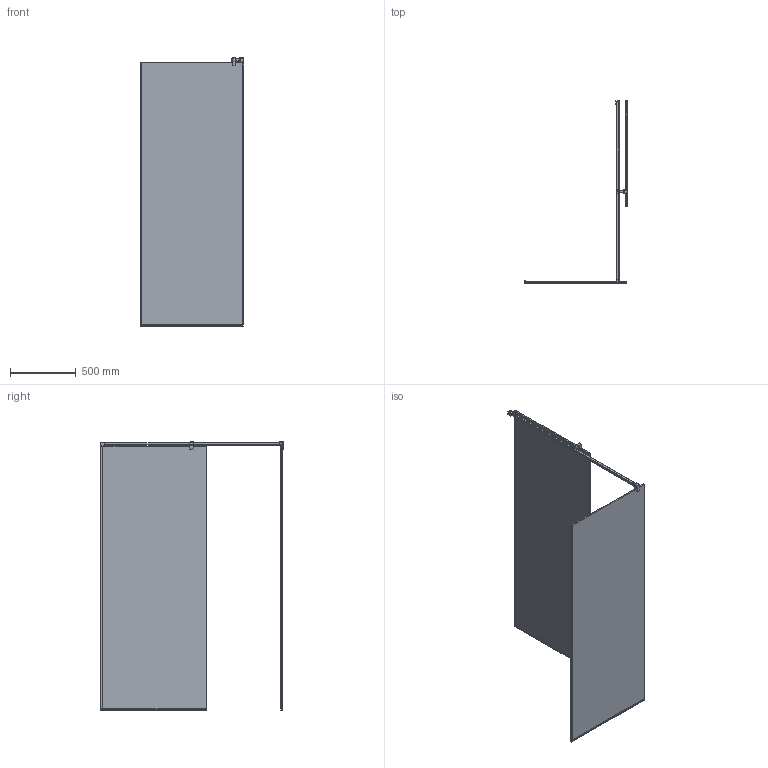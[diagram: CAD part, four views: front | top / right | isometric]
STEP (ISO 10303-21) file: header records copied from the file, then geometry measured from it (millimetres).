
FILE_DESCRIPTION(/* description */ ('Стенка задняя'),/* implementation_level */ '2;1');
FILE_NAME(/* name */ 'D:\7\2\GLASS LINE GK-012\GLASS LINE GK-012 правая модель\GLASS LINE GK-012 ПРАВАЯ-3D.stp',/* time_stamp */ '2020-07-16T19:44:10+03:00',/* author */ ('User'),/* organization */ (''),/* preprocessor_version */ 'ST-DEVELOPER v15.2',/* originating_system */ 'Autodesk Inventor 2014',/* authorisation */ '');
FILE_SCHEMA (('AUTOMOTIVE_DESIGN { 1 0 10303 214 3 1 1 }'));
Length unit declared in the file: millimetre
Products named in the file (11): Стекло.02 (01) GL; Профиль 13х13 (
стекло 10 мм); Профиль 13х13 (
стекло 10 мм)_2; Стекло.02 (02) GL; Профиль 13х13 (
стекло 10 мм)_3; Профиль 13х13 (
стекло 10 мм)_4; STB-Q RS-MT-00 (труба); STB-Q RS-MT-04L; STB-Q RS-MT-05; STB-Q RS-MT-06; GLASS LINE GK-012 ПРАВАЯ-3D
Bounding box: 787.5 x 1387.5 x 2034.25 mm (x, y, z)
Volume: 32054401 mm3; surface area: 7066284.9 mm2
Topology: 11 solids, 11 shells, 189 faces, 488 edges, 325 vertices
Faces by surface type: plane 126, cylinder 62, cone 1
Full cylindrical faces by diameter (mm): 4.2 x11, 5.2 x1, 6 x14
Entity records: 5000 total; most frequent: DIRECTION 838, CARTESIAN_POINT 830, ORIENTED_EDGE 762, EDGE_CURVE 381, LINE 284, VECTOR 284, AXIS2_PLACEMENT_3D 277, VERTEX_POINT 269
